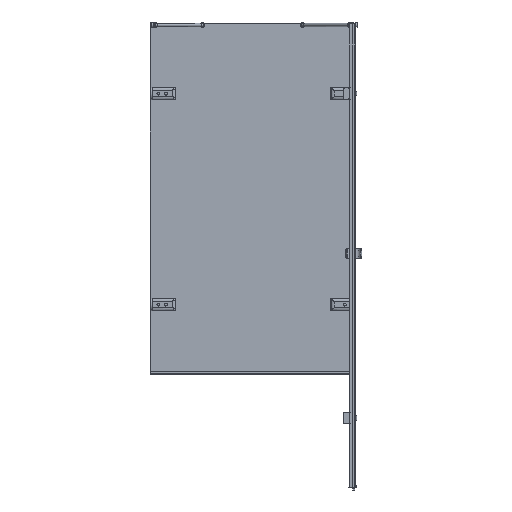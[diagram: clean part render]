
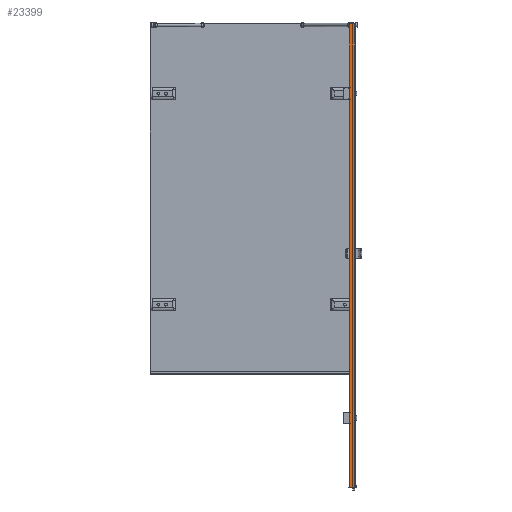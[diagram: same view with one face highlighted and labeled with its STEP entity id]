
A CAD part, left-side view. The second image highlights one B-rep face of the part: STEP entity #23399.
In plain terms, the highlighted planar face has unit normal (-1, 0, 0).
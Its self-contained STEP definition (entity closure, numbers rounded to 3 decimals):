
#769=PLANE($,#25246);
#2447=LINE($,#40476,#4607);
#2959=LINE($,#41918,#5119);
#2961=LINE($,#41923,#5121);
#2966=LINE($,#41933,#5126);
#2976=LINE($,#41964,#5136);
#2977=LINE($,#41966,#5137);
#2978=LINE($,#41968,#5138);
#2979=LINE($,#41970,#5139);
#2980=LINE($,#41973,#5140);
#2981=LINE($,#41975,#5141);
#2982=LINE($,#41978,#5142);
#4607=VECTOR($,#29057,34.4);
#5119=VECTOR($,#30213,2000.);
#5121=VECTOR($,#30217,2000.);
#5126=VECTOR($,#30226,3.25);
#5136=VECTOR($,#30250,20.1);
#5137=VECTOR($,#30251,0.2);
#5138=VECTOR($,#30252,2.536);
#5139=VECTOR($,#30253,2.);
#5140=VECTOR($,#30256,2.536);
#5141=VECTOR($,#30257,8.);
#5142=VECTOR($,#30260,9.077);
#6877=FACE_OUTER_BOUND($,#8256,.T.);
#8256=EDGE_LOOP($,(#19102,#19103,#19104,#19105,#19106,#19107,#19108,#19109,
#19110,#19111,#19112,#19113,#19114));
#9497=CIRCLE($,#25247,1.);
#9498=CIRCLE($,#25248,4.2);
#10881=VERTEX_POINT($,#40473);
#10882=VERTEX_POINT($,#40475);
#11300=VERTEX_POINT($,#41914);
#11301=VERTEX_POINT($,#41916);
#11302=VERTEX_POINT($,#41920);
#11303=VERTEX_POINT($,#41922);
#11306=VERTEX_POINT($,#41932);
#11321=VERTEX_POINT($,#41965);
#11322=VERTEX_POINT($,#41967);
#11323=VERTEX_POINT($,#41969);
#11324=VERTEX_POINT($,#41971);
#11325=VERTEX_POINT($,#41974);
#11326=VERTEX_POINT($,#41976);
#13436=EDGE_CURVE($,#10881,#10882,#2447,.T.);
#14087=EDGE_CURVE($,#11300,#11301,#2959,.T.);
#14089=EDGE_CURVE($,#11302,#11303,#2961,.T.);
#14094=EDGE_CURVE($,#11300,#11306,#2966,.T.);
#14110=EDGE_CURVE($,#11303,#11301,#2976,.T.);
#14111=EDGE_CURVE($,#11321,#11302,#2977,.T.);
#14112=EDGE_CURVE($,#11322,#11321,#2978,.T.);
#14113=EDGE_CURVE($,#11323,#11322,#2979,.T.);
#14114=EDGE_CURVE($,#11323,#11324,#9497,.T.);
#14115=EDGE_CURVE($,#10882,#11324,#2980,.T.);
#14116=EDGE_CURVE($,#10881,#11325,#2981,.T.);
#14117=EDGE_CURVE($,#11326,#11325,#9498,.T.);
#14118=EDGE_CURVE($,#11306,#11326,#2982,.T.);
#19102=ORIENTED_EDGE($,*,*,#14087,.T.);
#19103=ORIENTED_EDGE($,*,*,#14110,.F.);
#19104=ORIENTED_EDGE($,*,*,#14089,.F.);
#19105=ORIENTED_EDGE($,*,*,#14111,.F.);
#19106=ORIENTED_EDGE($,*,*,#14112,.F.);
#19107=ORIENTED_EDGE($,*,*,#14113,.F.);
#19108=ORIENTED_EDGE($,*,*,#14114,.T.);
#19109=ORIENTED_EDGE($,*,*,#14115,.F.);
#19110=ORIENTED_EDGE($,*,*,#13436,.F.);
#19111=ORIENTED_EDGE($,*,*,#14116,.T.);
#19112=ORIENTED_EDGE($,*,*,#14117,.F.);
#19113=ORIENTED_EDGE($,*,*,#14118,.F.);
#19114=ORIENTED_EDGE($,*,*,#14094,.F.);
#23399=ADVANCED_FACE($,(#6877),#769,.T.);
#25246=AXIS2_PLACEMENT_3D($,#41963,#30248,#30249);
#25247=AXIS2_PLACEMENT_3D($,#41972,#30254,#30255);
#25248=AXIS2_PLACEMENT_3D($,#41977,#30258,#30259);
#29057=DIRECTION($,(0.,1.,0.));
#30213=DIRECTION($,(0.,0.,1.));
#30217=DIRECTION($,(0.,0.,1.));
#30226=DIRECTION($,(0.,-1.,0.));
#30248=DIRECTION('center_axis',(-1.,0.,0.));
#30249=DIRECTION('ref_axis',(0.,-1.,0.));
#30250=DIRECTION($,(0.,-1.,0.));
#30251=DIRECTION($,(0.,-1.,0.));
#30252=DIRECTION($,(0.,0.,-1.));
#30253=DIRECTION($,(0.,-1.,0.));
#30254=DIRECTION('center_axis',(-1.,0.,0.));
#30255=DIRECTION('ref_axis',(0.,0.707,0.707));
#30256=DIRECTION($,(0.,0.,1.));
#30257=DIRECTION($,(0.,0.,1.));
#30258=DIRECTION('center_axis',(1.,0.,0.));
#30259=DIRECTION('ref_axis',(0.,1.,0.));
#30260=DIRECTION($,(0.,0.,1.));
#40473=CARTESIAN_POINT('',(195.59,-45.144,-515.056));
#40475=CARTESIAN_POINT('',(195.59,-10.744,-515.056));
#40476=CARTESIAN_POINT($,(195.59,-22.944,-515.056));
#41914=CARTESIAN_POINT('',(195.59,-34.044,-514.055));
#41916=CARTESIAN_POINT('',(195.59,-34.044,1485.945));
#41918=CARTESIAN_POINT($,(195.59,-34.044,-514.055));
#41920=CARTESIAN_POINT('',(195.59,-13.944,-514.055));
#41922=CARTESIAN_POINT('',(195.59,-13.944,1485.945));
#41923=CARTESIAN_POINT($,(195.59,-13.944,-514.055));
#41932=CARTESIAN_POINT('',(195.59,-37.294,-514.055));
#41933=CARTESIAN_POINT($,(195.59,-30.172,-514.055));
#41963=CARTESIAN_POINT('Origin',(195.59,-35.122,-505.768));
#41964=CARTESIAN_POINT($,(195.59,-13.944,1485.945));
#41965=CARTESIAN_POINT('',(195.59,-13.744,-514.055));
#41966=CARTESIAN_POINT($,(195.59,-30.172,-514.055));
#41967=CARTESIAN_POINT('',(195.59,-13.744,-511.519));
#41968=CARTESIAN_POINT($,(195.59,-13.744,-508.643));
#41969=CARTESIAN_POINT('',(195.59,-11.744,-511.519));
#41970=CARTESIAN_POINT($,(195.59,-10.744,-511.519));
#41971=CARTESIAN_POINT('',(195.59,-10.744,-512.519));
#41972=CARTESIAN_POINT('Origin',(195.59,-11.744,-512.519));
#41973=CARTESIAN_POINT($,(195.59,-10.744,-515.056));
#41974=CARTESIAN_POINT('',(195.59,-45.144,-507.056));
#41975=CARTESIAN_POINT($,(195.59,-45.144,-515.056));
#41976=CARTESIAN_POINT('',(195.59,-37.294,-504.978));
#41977=CARTESIAN_POINT('Origin',(195.59,-40.944,-507.056));
#41978=CARTESIAN_POINT($,(195.59,-37.294,-509.911));
